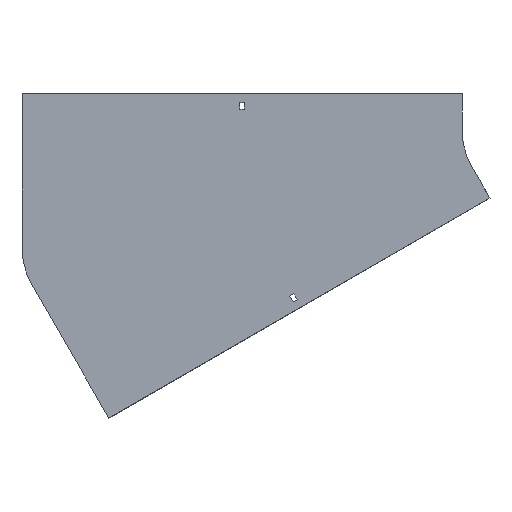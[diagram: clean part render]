
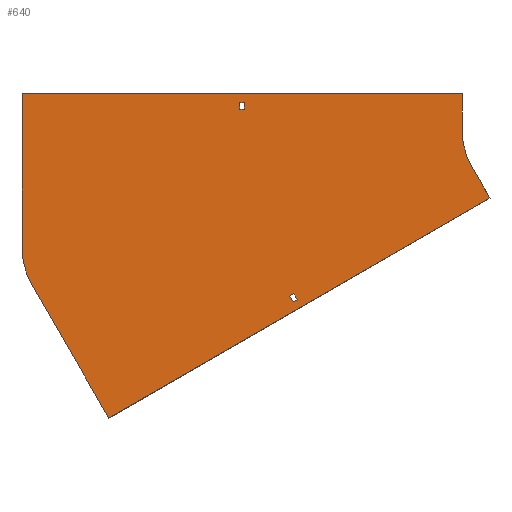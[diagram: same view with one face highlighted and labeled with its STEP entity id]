
A CAD part, front view. The second image highlights one B-rep face of the part: STEP entity #640.
In plain terms, the highlighted planar face has unit normal (0, -1, 0).
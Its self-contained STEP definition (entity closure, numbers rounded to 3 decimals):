
#9 = CIRCLE ( 'NONE', #223, 100. ) ;
#11 = LINE ( 'NONE', #979, #843 ) ;
#15 = DIRECTION ( 'NONE',  ( 0.5, 0., -0.866 ) ) ;
#16 = DIRECTION ( 'NONE',  ( -0.866, 0., -0.5 ) ) ;
#20 = VECTOR ( 'NONE', #182, 1000. ) ;
#23 = VECTOR ( 'NONE', #1260, 1000. ) ;
#42 = LINE ( 'NONE', #134, #428 ) ;
#47 = EDGE_CURVE ( 'NONE', #692, #1240, #931, .T. ) ;
#86 = EDGE_CURVE ( 'NONE', #786, #250, #446, .T. ) ;
#98 = DIRECTION ( 'NONE',  ( 1., 0., 0. ) ) ;
#100 = EDGE_CURVE ( 'NONE', #1355, #597, #859, .T. ) ;
#134 = CARTESIAN_POINT ( 'NONE',  ( -61.603, 0., -93.301 ) ) ;
#136 = VERTEX_POINT ( 'NONE', #1233 ) ;
#137 = VECTOR ( 'NONE', #15, 1000. ) ;
#143 = EDGE_CURVE ( 'NONE', #1034, #136, #1322, .T. ) ;
#154 = CARTESIAN_POINT ( 'NONE',  ( -326.328, 0., -232.284 ) ) ;
#168 = CARTESIAN_POINT ( 'NONE',  ( -704., 0., 50. ) ) ;
#182 = DIRECTION ( 'NONE',  ( 0., 0., 1. ) ) ;
#186 = LINE ( 'NONE', #1133, #23 ) ;
#187 = CARTESIAN_POINT ( 'NONE',  ( -405.25, 0., 29. ) ) ;
#204 = CARTESIAN_POINT ( 'NONE',  ( -704., 0., -161.841 ) ) ;
#207 = ORIENTED_EDGE ( 'NONE', *, *, #666, .T. ) ;
#215 = VERTEX_POINT ( 'NONE', #677 ) ;
#216 = FACE_BOUND ( 'NONE', #1068, .T. ) ;
#223 = AXIS2_PLACEMENT_3D ( 'NONE', #323, #756, #1195 ) ;
#250 = VERTEX_POINT ( 'NONE', #1261 ) ;
#263 = ORIENTED_EDGE ( 'NONE', *, *, #689, .F. ) ;
#301 = DIRECTION ( 'NONE',  ( 0., 0., -1. ) ) ;
#306 = EDGE_CURVE ( 'NONE', #215, #1364, #834, .T. ) ;
#307 = CARTESIAN_POINT ( 'NONE',  ( -704., 0., 50. ) ) ;
#309 = DIRECTION ( 'NONE',  ( 0., 0., -1. ) ) ;
#314 = VERTEX_POINT ( 'NONE', #168 ) ;
#321 = DIRECTION ( 'NONE',  ( 1., 0., 0. ) ) ;
#323 = CARTESIAN_POINT ( 'NONE',  ( 0., 0., 0. ) ) ;
#347 = CARTESIAN_POINT ( 'NONE',  ( -704., 0., -161.841 ) ) ;
#373 = ORIENTED_EDGE ( 'NONE', *, *, #893, .F. ) ;
#393 = CARTESIAN_POINT ( 'NONE',  ( -100., 0., 0. ) ) ;
#397 = EDGE_CURVE ( 'NONE', #443, #1112, #633, .T. ) ;
#406 = CARTESIAN_POINT ( 'NONE',  ( -336.457, 0., -227.74 ) ) ;
#413 = CARTESIAN_POINT ( 'NONE',  ( -100., 0., 50. ) ) ;
#419 = VECTOR ( 'NONE', #1059, 1000. ) ;
#428 = VECTOR ( 'NONE', #16, 1000. ) ;
#436 = DIRECTION ( 'NONE',  ( -0.5, 0., 0.866 ) ) ;
#442 = PLANE ( 'NONE',  #1011 ) ;
#443 = VERTEX_POINT ( 'NONE', #1067 ) ;
#446 = LINE ( 'NONE', #992, #566 ) ;
#448 = VECTOR ( 'NONE', #1203, 1000. ) ;
#471 = VECTOR ( 'NONE', #321, 1000. ) ;
#483 = ORIENTED_EDGE ( 'NONE', *, *, #892, .T. ) ;
#495 = EDGE_CURVE ( 'NONE', #1240, #443, #9, .T. ) ;
#512 = CARTESIAN_POINT ( 'NONE',  ( -405.25, 0., 29. ) ) ;
#518 = ORIENTED_EDGE ( 'NONE', *, *, #397, .F. ) ;
#521 = EDGE_CURVE ( 'NONE', #761, #1355, #675, .T. ) ;
#530 = ORIENTED_EDGE ( 'NONE', *, *, #100, .F. ) ;
#537 = ORIENTED_EDGE ( 'NONE', *, *, #1019, .F. ) ;
#551 = DIRECTION ( 'NONE',  ( 0.5, 0., -0.866 ) ) ;
#553 = ORIENTED_EDGE ( 'NONE', *, *, #495, .F. ) ;
#560 = ORIENTED_EDGE ( 'NONE', *, *, #521, .F. ) ;
#566 = VECTOR ( 'NONE', #436, 1000. ) ;
#567 = CARTESIAN_POINT ( 'NONE',  ( -398.75, 0., 38. ) ) ;
#581 = VERTEX_POINT ( 'NONE', #347 ) ;
#597 = VERTEX_POINT ( 'NONE', #972 ) ;
#626 = CARTESIAN_POINT ( 'NONE',  ( -604., 0., -161.841 ) ) ;
#630 = EDGE_CURVE ( 'NONE', #1130, #761, #11, .T. ) ;
#633 = LINE ( 'NONE', #974, #1174 ) ;
#640 = ADVANCED_FACE ( 'NONE', ( #216, #1073, #1287 ), #442, .T. ) ;
#661 = ORIENTED_EDGE ( 'NONE', *, *, #143, .T. ) ;
#666 = EDGE_CURVE ( 'NONE', #1364, #1034, #763, .T. ) ;
#675 = LINE ( 'NONE', #1306, #448 ) ;
#677 = CARTESIAN_POINT ( 'NONE',  ( -405.25, 0., 29. ) ) ;
#689 = EDGE_CURVE ( 'NONE', #581, #314, #1170, .T. ) ;
#692 = VERTEX_POINT ( 'NONE', #413 ) ;
#693 = EDGE_CURVE ( 'NONE', #314, #692, #1278, .T. ) ;
#703 = ORIENTED_EDGE ( 'NONE', *, *, #630, .F. ) ;
#710 = EDGE_LOOP ( 'NONE', ( #911, #530, #560, #703 ) ) ;
#745 = DIRECTION ( 'NONE',  ( -0.5, 0., 0.866 ) ) ;
#756 = DIRECTION ( 'NONE',  ( 0., -1., 0. ) ) ;
#759 = AXIS2_PLACEMENT_3D ( 'NONE', #626, #913, #833 ) ;
#761 = VERTEX_POINT ( 'NONE', #1346 ) ;
#763 = LINE ( 'NONE', #1201, #471 ) ;
#786 = VERTEX_POINT ( 'NONE', #989 ) ;
#833 = DIRECTION ( 'NONE',  ( 0., 0., 1. ) ) ;
#834 = LINE ( 'NONE', #187, #20 ) ;
#842 = VECTOR ( 'NONE', #1150, 1000. ) ;
#843 = VECTOR ( 'NONE', #745, 1000. ) ;
#844 = CARTESIAN_POINT ( 'NONE',  ( 0., 0., 0. ) ) ;
#859 = LINE ( 'NONE', #1299, #137 ) ;
#863 = DIRECTION ( 'NONE',  ( 0., -1., 0. ) ) ;
#887 = EDGE_LOOP ( 'NONE', ( #1114, #263, #373, #1312, #537, #518, #553, #1175 ) ) ;
#891 = EDGE_CURVE ( 'NONE', #597, #1130, #186, .T. ) ;
#892 = EDGE_CURVE ( 'NONE', #136, #215, #1141, .T. ) ;
#893 = EDGE_CURVE ( 'NONE', #250, #581, #1377, .T. ) ;
#911 = ORIENTED_EDGE ( 'NONE', *, *, #891, .F. ) ;
#913 = DIRECTION ( 'NONE',  ( 0., 1., 0. ) ) ;
#931 = LINE ( 'NONE', #943, #1199 ) ;
#943 = CARTESIAN_POINT ( 'NONE',  ( -100., 0., 50. ) ) ;
#972 = CARTESIAN_POINT ( 'NONE',  ( -331.957, 0., -235.534 ) ) ;
#974 = CARTESIAN_POINT ( 'NONE',  ( -86.603, 0., -50. ) ) ;
#979 = CARTESIAN_POINT ( 'NONE',  ( -330.828, 0., -224.49 ) ) ;
#989 = CARTESIAN_POINT ( 'NONE',  ( -584.682, 0., -395.301 ) ) ;
#992 = CARTESIAN_POINT ( 'NONE',  ( -584.682, 0., -395.301 ) ) ;
#993 = DIRECTION ( 'NONE',  ( 0., 0., -1. ) ) ;
#1011 = AXIS2_PLACEMENT_3D ( 'NONE', #844, #863, #301 ) ;
#1019 = EDGE_CURVE ( 'NONE', #1112, #786, #42, .T. ) ;
#1033 = VECTOR ( 'NONE', #993, 1000. ) ;
#1034 = VERTEX_POINT ( 'NONE', #567 ) ;
#1059 = DIRECTION ( 'NONE',  ( 0., 0., 1. ) ) ;
#1067 = CARTESIAN_POINT ( 'NONE',  ( -86.603, 0., -50. ) ) ;
#1068 = EDGE_LOOP ( 'NONE', ( #1120, #207, #661, #483 ) ) ;
#1073 = FACE_OUTER_BOUND ( 'NONE', #887, .T. ) ;
#1112 = VERTEX_POINT ( 'NONE', #1332 ) ;
#1114 = ORIENTED_EDGE ( 'NONE', *, *, #693, .F. ) ;
#1119 = CARTESIAN_POINT ( 'NONE',  ( -398.75, 0., 29. ) ) ;
#1120 = ORIENTED_EDGE ( 'NONE', *, *, #306, .T. ) ;
#1130 = VERTEX_POINT ( 'NONE', #154 ) ;
#1133 = CARTESIAN_POINT ( 'NONE',  ( -331.957, 0., -235.534 ) ) ;
#1141 = LINE ( 'NONE', #512, #842 ) ;
#1150 = DIRECTION ( 'NONE',  ( -1., 0., 0. ) ) ;
#1170 = LINE ( 'NONE', #204, #419 ) ;
#1174 = VECTOR ( 'NONE', #551, 1000. ) ;
#1175 = ORIENTED_EDGE ( 'NONE', *, *, #47, .F. ) ;
#1195 = DIRECTION ( 'NONE',  ( 0., 0., -1. ) ) ;
#1199 = VECTOR ( 'NONE', #309, 1000. ) ;
#1201 = CARTESIAN_POINT ( 'NONE',  ( -405.25, 0., 38. ) ) ;
#1203 = DIRECTION ( 'NONE',  ( -0.866, 0., -0.5 ) ) ;
#1218 = VECTOR ( 'NONE', #98, 1000. ) ;
#1233 = CARTESIAN_POINT ( 'NONE',  ( -398.75, 0., 29. ) ) ;
#1240 = VERTEX_POINT ( 'NONE', #393 ) ;
#1260 = DIRECTION ( 'NONE',  ( 0.866, 0., 0.5 ) ) ;
#1261 = CARTESIAN_POINT ( 'NONE',  ( -690.603, 0., -211.841 ) ) ;
#1278 = LINE ( 'NONE', #307, #1218 ) ;
#1287 = FACE_BOUND ( 'NONE', #710, .T. ) ;
#1299 = CARTESIAN_POINT ( 'NONE',  ( -336.457, 0., -227.74 ) ) ;
#1306 = CARTESIAN_POINT ( 'NONE',  ( -336.457, 0., -227.74 ) ) ;
#1312 = ORIENTED_EDGE ( 'NONE', *, *, #86, .F. ) ;
#1322 = LINE ( 'NONE', #1119, #1033 ) ;
#1332 = CARTESIAN_POINT ( 'NONE',  ( -61.603, 0., -93.301 ) ) ;
#1346 = CARTESIAN_POINT ( 'NONE',  ( -330.828, 0., -224.49 ) ) ;
#1355 = VERTEX_POINT ( 'NONE', #406 ) ;
#1364 = VERTEX_POINT ( 'NONE', #1404 ) ;
#1377 = CIRCLE ( 'NONE', #759, 100. ) ;
#1404 = CARTESIAN_POINT ( 'NONE',  ( -405.25, 0., 38. ) ) ;
